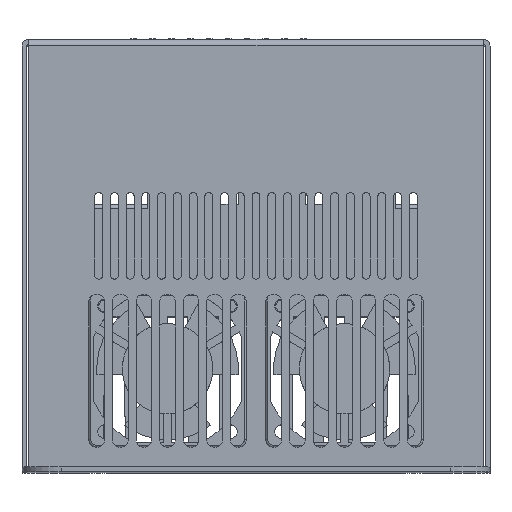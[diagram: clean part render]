
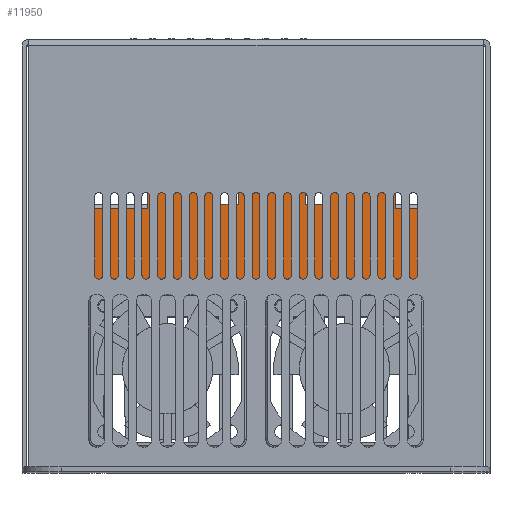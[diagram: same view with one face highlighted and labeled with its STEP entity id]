
A CAD part, top view. The second image highlights one B-rep face of the part: STEP entity #11950.
In plain terms, the highlighted planar face has unit normal (0, 0, 1).
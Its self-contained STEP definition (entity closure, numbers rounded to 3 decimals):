
#11950=ADVANCED_FACE('',(#25481),#25483,.T.);
#25481=FACE_BOUND('',#25482,.T.);
#25482=EDGE_LOOP('',(#35182,#35183,#35184,#35185,#35186,#35187,#35188,#35189,#35190,
#35191,#35192,#35193,#35194,#35195,#35196,#35197));
#25483=PLANE('',#25484);
#25484=AXIS2_PLACEMENT_3D('',#25485,#25486,#25487);
#25485=CARTESIAN_POINT('',(123.,60.95,-235.5));
#25486=DIRECTION('',(0.,0.,1.));
#25487=DIRECTION('',(1.,0.,0.));
#35182=ORIENTED_EDGE('',*,*,#40440,.T.);
#35183=ORIENTED_EDGE('',*,*,#40441,.T.);
#35184=ORIENTED_EDGE('',*,*,#40367,.F.);
#35185=ORIENTED_EDGE('',*,*,#40442,.T.);
#35186=ORIENTED_EDGE('',*,*,#40357,.T.);
#35187=ORIENTED_EDGE('',*,*,#40443,.F.);
#35188=ORIENTED_EDGE('',*,*,#40320,.F.);
#35189=ORIENTED_EDGE('',*,*,#40444,.T.);
#35190=ORIENTED_EDGE('',*,*,#40312,.T.);
#35191=ORIENTED_EDGE('',*,*,#40439,.T.);
#35192=ORIENTED_EDGE('',*,*,#40329,.F.);
#35193=ORIENTED_EDGE('',*,*,#40445,.T.);
#35194=ORIENTED_EDGE('',*,*,#40348,.T.);
#35195=ORIENTED_EDGE('',*,*,#40446,.T.);
#35196=ORIENTED_EDGE('',*,*,#40447,.T.);
#35197=ORIENTED_EDGE('',*,*,#40448,.T.);
#40312=EDGE_CURVE('',#46899,#46897,#46900,.T.);
#40320=EDGE_CURVE('',#46911,#46913,#46914,.T.);
#40329=EDGE_CURVE('',#46928,#46930,#46931,.T.);
#40348=EDGE_CURVE('',#46966,#46964,#46967,.T.);
#40357=EDGE_CURVE('',#46983,#46981,#46984,.T.);
#40367=EDGE_CURVE('',#46998,#47000,#47001,.T.);
#40439=EDGE_CURVE('',#46897,#46930,#47131,.T.);
#40440=EDGE_CURVE('',#47132,#47133,#47134,.T.);
#40441=EDGE_CURVE('',#47133,#47000,#47135,.T.);
#40442=EDGE_CURVE('',#46998,#46983,#47136,.T.);
#40443=EDGE_CURVE('',#46913,#46981,#47137,.T.);
#40444=EDGE_CURVE('',#46911,#46899,#47138,.T.);
#40445=EDGE_CURVE('',#46928,#46966,#47139,.T.);
#40446=EDGE_CURVE('',#46964,#47140,#47141,.T.);
#40447=EDGE_CURVE('',#47140,#47142,#47143,.T.);
#40448=EDGE_CURVE('',#47142,#47132,#47144,.T.);
#46897=VERTEX_POINT('',#63795);
#46899=VERTEX_POINT('',#63799);
#46900=LINE('',#63800,#63801);
#46911=VERTEX_POINT('',#63826);
#46913=VERTEX_POINT('',#63831);
#46914=LINE('',#63832,#63833);
#46928=VERTEX_POINT('',#63863);
#46930=VERTEX_POINT('',#63868);
#46931=LINE('',#63869,#63870);
#46964=VERTEX_POINT('',#63943);
#46966=VERTEX_POINT('',#63948);
#46967=LINE('',#63949,#63950);
#46981=VERTEX_POINT('',#63981);
#46983=VERTEX_POINT('',#63985);
#46984=LINE('',#63986,#63987);
#46998=VERTEX_POINT('',#64019);
#47000=VERTEX_POINT('',#64024);
#47001=LINE('',#64025,#64026);
#47131=LINE('',#64315,#64316);
#47132=VERTEX_POINT('',#64318);
#47133=VERTEX_POINT('',#64319);
#47134=LINE('',#64320,#64321);
#47135=LINE('',#64323,#64324);
#47136=LINE('',#64326,#64327);
#47137=LINE('',#64329,#64330);
#47138=LINE('',#64332,#64333);
#47139=LINE('',#64335,#64336);
#47140=VERTEX_POINT('',#64338);
#47141=LINE('',#64339,#64340);
#47142=VERTEX_POINT('',#64342);
#47143=LINE('',#64343,#64344);
#47144=LINE('',#64346,#64347);
#63795=CARTESIAN_POINT('',(114.5,68.2,-235.5));
#63799=CARTESIAN_POINT('',(114.5,74.7,-235.5));
#63800=CARTESIAN_POINT('',(114.5,74.7,-235.5));
#63801=VECTOR('',#63802,1.);
#63802=DIRECTION('',(0.,-1.,0.));
#63826=CARTESIAN_POINT('',(131.5,74.7,-235.5));
#63831=CARTESIAN_POINT('',(131.5,68.2,-235.5));
#63832=CARTESIAN_POINT('',(131.5,74.7,-235.5));
#63833=VECTOR('',#63834,1.);
#63834=DIRECTION('',(0.,-1.,0.));
#63863=CARTESIAN_POINT('',(108.5,74.7,-235.5));
#63868=CARTESIAN_POINT('',(108.5,68.2,-235.5));
#63869=CARTESIAN_POINT('',(108.5,74.7,-235.5));
#63870=VECTOR('',#63871,1.);
#63871=DIRECTION('',(0.,-1.,0.));
#63943=CARTESIAN_POINT('',(91.5,67.2,-235.5));
#63948=CARTESIAN_POINT('',(91.5,74.7,-235.5));
#63949=CARTESIAN_POINT('',(91.5,74.7,-235.5));
#63950=VECTOR('',#63951,1.);
#63951=DIRECTION('',(0.,-1.,0.));
#63981=CARTESIAN_POINT('',(137.5,68.2,-235.5));
#63985=CARTESIAN_POINT('',(137.5,74.7,-235.5));
#63986=CARTESIAN_POINT('',(137.5,74.7,-235.5));
#63987=VECTOR('',#63988,1.);
#63988=DIRECTION('',(0.,-1.,0.));
#64019=CARTESIAN_POINT('',(154.5,74.7,-235.5));
#64024=CARTESIAN_POINT('',(154.5,67.2,-235.5));
#64025=CARTESIAN_POINT('',(154.5,74.7,-235.5));
#64026=VECTOR('',#64027,1.);
#64027=DIRECTION('',(0.,-1.,0.));
#64315=CARTESIAN_POINT('',(114.5,68.2,-235.5));
#64316=VECTOR('',#64317,1.);
#64317=DIRECTION('',(-1.,0.,0.));
#64318=CARTESIAN_POINT('',(169.,47.2,-235.5));
#64319=CARTESIAN_POINT('',(169.,67.2,-235.5));
#64320=CARTESIAN_POINT('',(169.,47.2,-235.5));
#64321=VECTOR('',#64322,1.);
#64322=DIRECTION('',(0.,1.,0.));
#64323=CARTESIAN_POINT('',(169.,67.2,-235.5));
#64324=VECTOR('',#64325,1.);
#64325=DIRECTION('',(-1.,0.,0.));
#64326=CARTESIAN_POINT('',(154.5,74.7,-235.5));
#64327=VECTOR('',#64328,1.);
#64328=DIRECTION('',(-1.,0.,0.));
#64329=CARTESIAN_POINT('',(131.5,68.2,-235.5));
#64330=VECTOR('',#64331,1.);
#64331=DIRECTION('',(1.,0.,0.));
#64332=CARTESIAN_POINT('',(131.5,74.7,-235.5));
#64333=VECTOR('',#64334,1.);
#64334=DIRECTION('',(-1.,0.,0.));
#64335=CARTESIAN_POINT('',(108.5,74.7,-235.5));
#64336=VECTOR('',#64337,1.);
#64337=DIRECTION('',(-1.,0.,0.));
#64338=CARTESIAN_POINT('',(77.,67.2,-235.5));
#64339=CARTESIAN_POINT('',(91.5,67.2,-235.5));
#64340=VECTOR('',#64341,1.);
#64341=DIRECTION('',(-1.,0.,0.));
#64342=CARTESIAN_POINT('',(77.,47.2,-235.5));
#64343=CARTESIAN_POINT('',(77.,67.2,-235.5));
#64344=VECTOR('',#64345,1.);
#64345=DIRECTION('',(0.,-1.,0.));
#64346=CARTESIAN_POINT('',(77.,47.2,-235.5));
#64347=VECTOR('',#64348,1.);
#64348=DIRECTION('',(1.,0.,0.));
